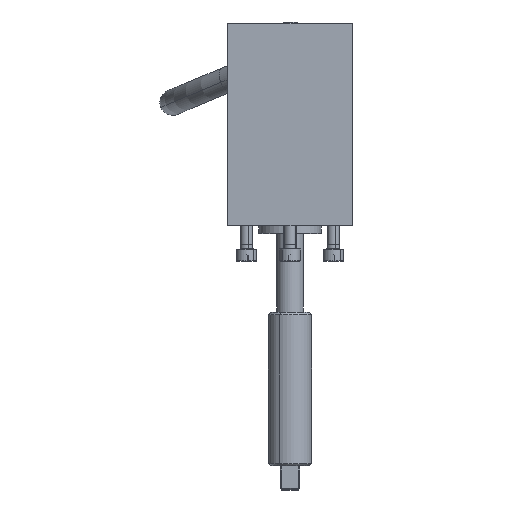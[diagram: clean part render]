
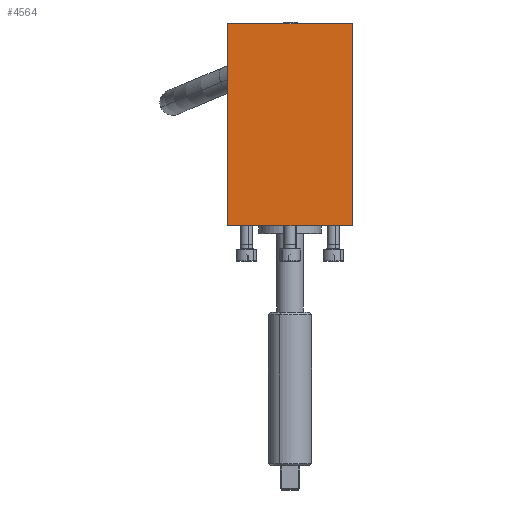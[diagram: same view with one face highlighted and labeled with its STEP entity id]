
A CAD part, top view. The second image highlights one B-rep face of the part: STEP entity #4564.
In plain terms, the highlighted planar face has unit normal (0, 0, 1).
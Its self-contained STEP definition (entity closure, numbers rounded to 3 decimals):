
#4427=CARTESIAN_POINT('Vertex',(40.,-58.2,510.1)) ;
#4432=CARTESIAN_POINT('Line Origine',(0.,-58.2,510.1)) ;
#4436=CARTESIAN_POINT('Vertex',(-40.,-58.2,510.1)) ;
#4534=CARTESIAN_POINT('Axis2P3D Location',(-40.,72.,510.1)) ;
#4539=CARTESIAN_POINT('Line Origine',(40.,6.9,510.1)) ;
#4543=CARTESIAN_POINT('Vertex',(40.,72.,510.1)) ;
#4546=CARTESIAN_POINT('Line Origine',(0.,72.,510.1)) ;
#4550=CARTESIAN_POINT('Vertex',(-40.,72.,510.1)) ;
#4553=CARTESIAN_POINT('Line Origine',(-40.,6.9,510.1)) ;
#4433=DIRECTION('Vector Direction',(1.,0.,0.)) ;
#4535=DIRECTION('Axis2P3D Direction',(0.,0.,-1.)) ;
#4536=DIRECTION('Axis2P3D XDirection',(1.,0.,0.)) ;
#4540=DIRECTION('Vector Direction',(0.,-1.,0.)) ;
#4547=DIRECTION('Vector Direction',(1.,0.,0.)) ;
#4554=DIRECTION('Vector Direction',(0.,-1.,0.)) ;
#4537=AXIS2_PLACEMENT_3D('Plane Axis2P3D',#4534,#4535,#4536) ;
#4559=ORIENTED_EDGE('',*,*,#4438,.T.) ;
#4560=ORIENTED_EDGE('',*,*,#4545,.F.) ;
#4561=ORIENTED_EDGE('',*,*,#4552,.F.) ;
#4562=ORIENTED_EDGE('',*,*,#4557,.T.) ;
#4434=VECTOR('Line Direction',#4433,1.) ;
#4541=VECTOR('Line Direction',#4540,1.) ;
#4548=VECTOR('Line Direction',#4547,1.) ;
#4555=VECTOR('Line Direction',#4554,1.) ;
#4564=ADVANCED_FACE('',(#4563),#4538,.F.) ;
#4438=EDGE_CURVE('',#4437,#4428,#4435,.T.) ;
#4545=EDGE_CURVE('',#4544,#4428,#4542,.T.) ;
#4552=EDGE_CURVE('',#4551,#4544,#4549,.T.) ;
#4557=EDGE_CURVE('',#4551,#4437,#4556,.T.) ;
#4558=EDGE_LOOP('',(#4559,#4560,#4561,#4562)) ;
#4563=FACE_OUTER_BOUND('',#4558,.T.) ;
#4435=LINE('Line',#4432,#4434) ;
#4542=LINE('Line',#4539,#4541) ;
#4549=LINE('Line',#4546,#4548) ;
#4556=LINE('Line',#4553,#4555) ;
#4538=PLANE('Plane',#4537) ;
#4428=VERTEX_POINT('',#4427) ;
#4437=VERTEX_POINT('',#4436) ;
#4544=VERTEX_POINT('',#4543) ;
#4551=VERTEX_POINT('',#4550) ;
